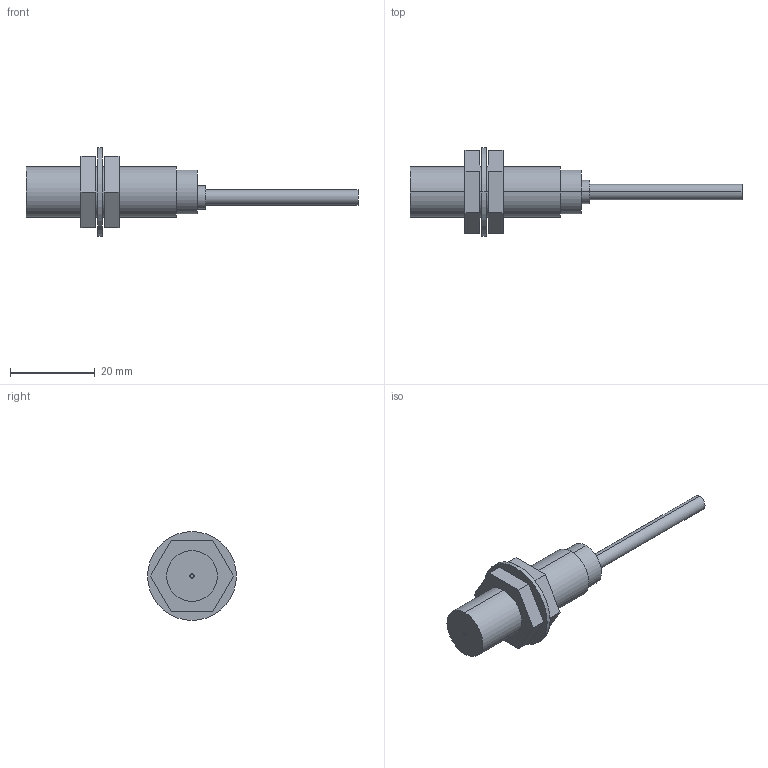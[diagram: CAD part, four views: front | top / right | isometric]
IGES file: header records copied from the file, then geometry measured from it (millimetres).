
Start section: SolidWorks IGES FILE using analytic representation for surfaces
Global section: file name: C:\Documents and Settings\yk0651\デスクトップ\3D_catalog_050929\0_IGES\GX-12MU.IGS; native system: SolidWorks 2004 by SolidWorks Corporation; preprocessor: Version 5.3; author: yk0651; date: 051002.163953; units: millimetre
Bounding box: 78.5 x 21 x 21 mm (x, y, z)
Volume: 6047 mm3; surface area: 3965.3 mm2
Topology: 4 solids, 4 shells, 45 faces, 96 edges, 64 vertices
Faces by surface type: plane 25, revolution 20
